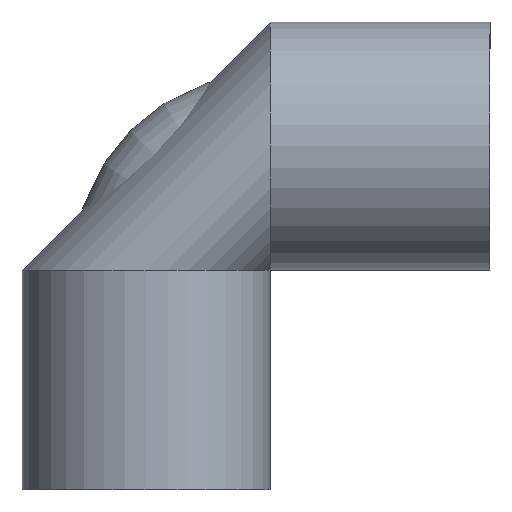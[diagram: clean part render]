
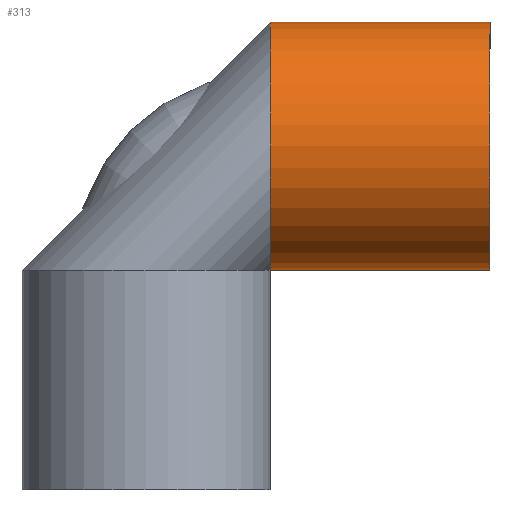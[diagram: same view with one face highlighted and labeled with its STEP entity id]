
A CAD part, front view. The second image highlights one B-rep face of the part: STEP entity #313.
In plain terms, the highlighted cylindrical face has radius 22 mm (diameter 44 mm), a full revolution.
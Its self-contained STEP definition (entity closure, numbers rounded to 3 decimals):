
#37=CIRCLE('',#355,22.);
#38=CIRCLE('',#356,22.);
#59=ORIENTED_EDGE('',*,*,#125,.T.);
#60=ORIENTED_EDGE('',*,*,#126,.T.);
#61=ORIENTED_EDGE('',*,*,#127,.F.);
#62=ORIENTED_EDGE('',*,*,#128,.F.);
#125=EDGE_CURVE('',#158,#158,#187,.T.);
#126=EDGE_CURVE('',#159,#159,#37,.F.);
#127=EDGE_CURVE('',#160,#160,#38,.F.);
#128=EDGE_CURVE('',#161,#161,#188,.T.);
#158=VERTEX_POINT('',#522);
#159=VERTEX_POINT('',#524);
#160=VERTEX_POINT('',#526);
#161=VERTEX_POINT('',#546);
#187=B_SPLINE_CURVE_WITH_KNOTS('',3,(#511,#512,#513,#514,#515,#516,#517,
#518,#519,#520,#521),.UNSPECIFIED.,.T.,.F.,(1,1,1,1,1,1,1,1,1,1,1,1,1,1,
1),(-0.005,-0.003,-0.002,0.,0.002,
0.003,0.005,0.006,0.008,
0.009,0.011,0.013,0.014,
0.016,0.017),.UNSPECIFIED.);
#188=B_SPLINE_CURVE_WITH_KNOTS('',3,(#527,#528,#529,#530,#531,#532,#533,
#534,#535,#536,#537,#538,#539,#540,#541,#542,#543,#544,#545),
 .UNSPECIFIED.,.T.,.F.,(1,1,1,1,1,1,1,1,1,1,1,1,1,1,1,1,1,1,1,1,1,1,1),
(-0.008,-0.005,-0.003,0.,0.003,
0.005,0.008,0.011,0.014,
0.016,0.019,0.022,0.024,
0.027,0.03,0.033,0.035,
0.038,0.041,0.043,0.046,
0.049,0.051),.UNSPECIFIED.);
#197=EDGE_LOOP('',(#59));
#198=EDGE_LOOP('',(#60));
#199=EDGE_LOOP('',(#61));
#200=EDGE_LOOP('',(#62));
#249=FACE_BOUND('',#197,.T.);
#250=FACE_BOUND('',#198,.T.);
#251=FACE_BOUND('',#199,.T.);
#252=FACE_BOUND('',#200,.T.);
#301=CYLINDRICAL_SURFACE('',#354,22.);
#313=ADVANCED_FACE('',(#249,#250,#251,#252),#301,.T.);
#354=AXIS2_PLACEMENT_3D('',#510,#407,#408);
#355=AXIS2_PLACEMENT_3D('',#523,#409,#410);
#356=AXIS2_PLACEMENT_3D('',#525,#411,#412);
#407=DIRECTION('',(-1.,0.,0.));
#408=DIRECTION('',(0.,0.,1.));
#409=DIRECTION('',(-1.,0.,0.));
#410=DIRECTION('',(0.,0.,-1.));
#411=DIRECTION('',(-1.,0.,0.));
#412=DIRECTION('',(0.,0.,-1.));
#510=CARTESIAN_POINT('',(61.,0.,61.));
#511=CARTESIAN_POINT('',(39.431,21.955,59.434));
#512=CARTESIAN_POINT('',(41.,21.886,58.783));
#513=CARTESIAN_POINT('',(42.567,21.955,59.434));
#514=CARTESIAN_POINT('',(43.216,22.023,60.998));
#515=CARTESIAN_POINT('',(42.568,21.955,62.567));
#516=CARTESIAN_POINT('',(41.,21.886,63.216));
#517=CARTESIAN_POINT('',(39.435,21.954,62.569));
#518=CARTESIAN_POINT('',(38.784,22.023,61.002));
#519=CARTESIAN_POINT('',(39.431,21.955,59.434));
#520=CARTESIAN_POINT('',(41.,21.886,58.783));
#521=CARTESIAN_POINT('',(42.567,21.955,59.434));
#522=CARTESIAN_POINT('',(41.,21.909,59.));
#523=CARTESIAN_POINT('',(22.,0.,61.));
#524=CARTESIAN_POINT('',(22.,0.,39.));
#525=CARTESIAN_POINT('',(61.,0.,61.));
#526=CARTESIAN_POINT('',(61.,0.,39.));
#527=CARTESIAN_POINT('',(51.443,20.995,54.402));
#528=CARTESIAN_POINT('',(49.129,21.426,55.884));
#529=CARTESIAN_POINT('',(47.555,21.861,58.126));
#530=CARTESIAN_POINT('',(46.946,22.058,60.828));
#531=CARTESIAN_POINT('',(47.424,21.902,63.56));
#532=CARTESIAN_POINT('',(48.892,21.485,65.876));
#533=CARTESIAN_POINT('',(51.121,21.04,67.461));
#534=CARTESIAN_POINT('',(53.825,20.828,68.08));
#535=CARTESIAN_POINT('',(56.561,20.996,67.596));
#536=CARTESIAN_POINT('',(58.868,21.426,66.117));
#537=CARTESIAN_POINT('',(60.443,21.86,63.879));
#538=CARTESIAN_POINT('',(61.054,22.058,61.179));
#539=CARTESIAN_POINT('',(60.577,21.902,58.44));
#540=CARTESIAN_POINT('',(59.106,21.484,56.121));
#541=CARTESIAN_POINT('',(56.875,21.039,54.538));
#542=CARTESIAN_POINT('',(54.176,20.828,53.921));
#543=CARTESIAN_POINT('',(51.443,20.995,54.402));
#544=CARTESIAN_POINT('',(49.129,21.426,55.884));
#545=CARTESIAN_POINT('',(47.555,21.861,58.126));
#546=CARTESIAN_POINT('',(49.252,21.427,56.011));
